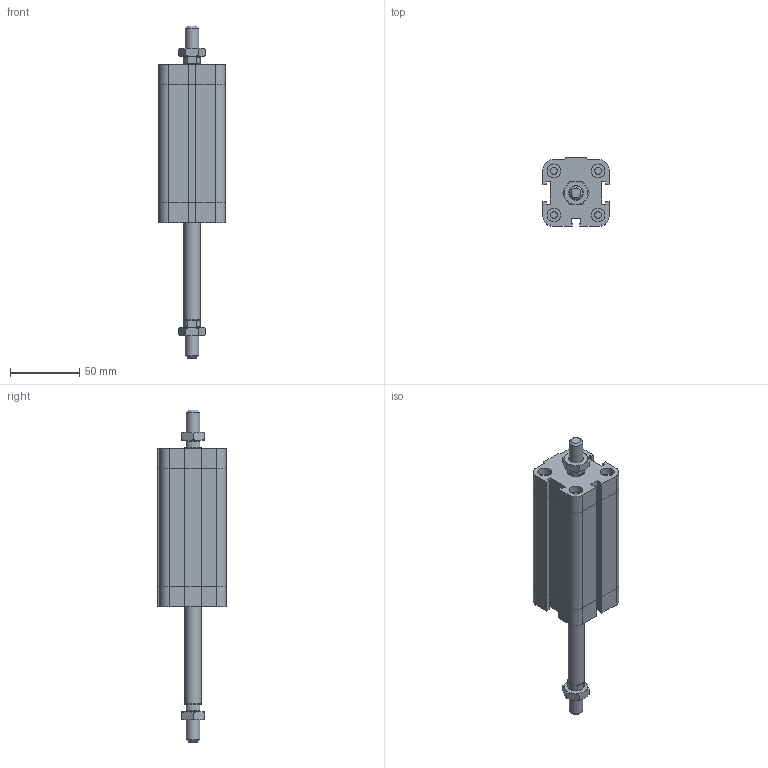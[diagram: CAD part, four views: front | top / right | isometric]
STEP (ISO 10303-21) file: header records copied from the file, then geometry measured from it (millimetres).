
FILE_DESCRIPTION((''),'2;1');
FILE_NAME('I:\Area Tecnica\Disegni\VARIE-3D\Componenti\EUROPE\15##_###_####_04_#\1581_32_0070_04_1.iam.stp','2009-04-20T14:51:15',(''),(''),'Autodesk Inventor 2009','Autodesk Inventor 2009','');
FILE_SCHEMA(('AUTOMOTIVE_DESIGN { 1 0 10303 214 1 1 1 1 }'));
Length unit declared in the file: millimetre
Products named in the file (4): 1581_32_0070_04_1; 1581_32_0070_03_1_C; 1561_32_0070_04_1_S; DBFM10
Assembly tree (4 placements, depth 2):
  1581_32_0070_04_1
    1581_32_0070_03_1_C
    1561_32_0070_04_1_S
    DBFM10  x2
Bounding box: 48 x 49.5 x 240.5 mm (x, y, z)
Volume: 248268.1 mm3; surface area: 49161.1 mm2
Topology: 4 solids, 4 shells, 222 faces, 483 edges, 289 vertices
Faces by surface type: plane 129, cone 35, bspline 33, cylinder 25
Full cylindrical faces by diameter (mm): 4.917 x4, 8.8 x1, 10 x5, 11.7 x2, 12 x1
Entity records: 5450 total; most frequent: CARTESIAN_POINT 1222, DIRECTION 802, ORIENTED_EDGE 772, EDGE_CURVE 386, AXIS2_PLACEMENT_3D 272, EDGE_LOOP 258, VECTOR 258, LINE 258
